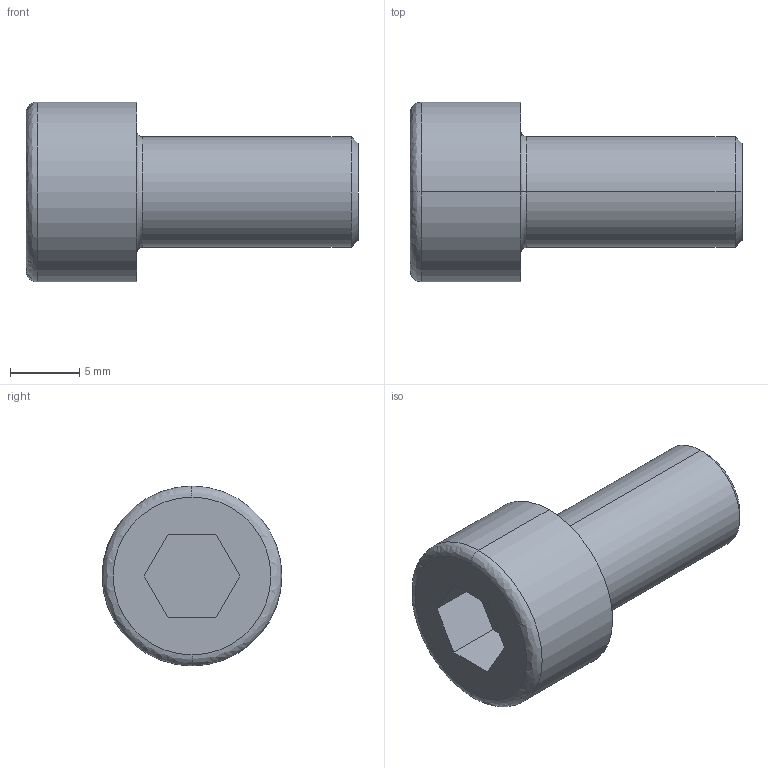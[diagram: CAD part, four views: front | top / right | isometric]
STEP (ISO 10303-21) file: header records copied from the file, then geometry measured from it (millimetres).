
FILE_DESCRIPTION (( 'STEP AP203' ), '1' );
FILE_NAME ('035 Vis CHc M8x16.STEP', '2021-10-27T18:28:57', ( '' ), ( '' ), 'SwSTEP 2.0', 'SolidWorks 2019', '' );
FILE_SCHEMA (( 'CONFIG_CONTROL_DESIGN' ));
Length unit declared in the file: millimetre
Products named in the file (1): 035 Vis CHc M8x16
Bounding box: 24 x 13 x 13 mm (x, y, z)
Volume: 1724 mm3; surface area: 1443.7 mm2
Topology: 1 solids, 1 shells, 27 faces, 60 edges, 38 vertices
Faces by surface type: plane 13, cylinder 8, bspline 4, cone 2
Entity records: 873 total; most frequent: CARTESIAN_POINT 186, DIRECTION 134, ORIENTED_EDGE 120, EDGE_CURVE 60, AXIS2_PLACEMENT_3D 50, VERTEX_POINT 38, VECTOR 34, LINE 34
